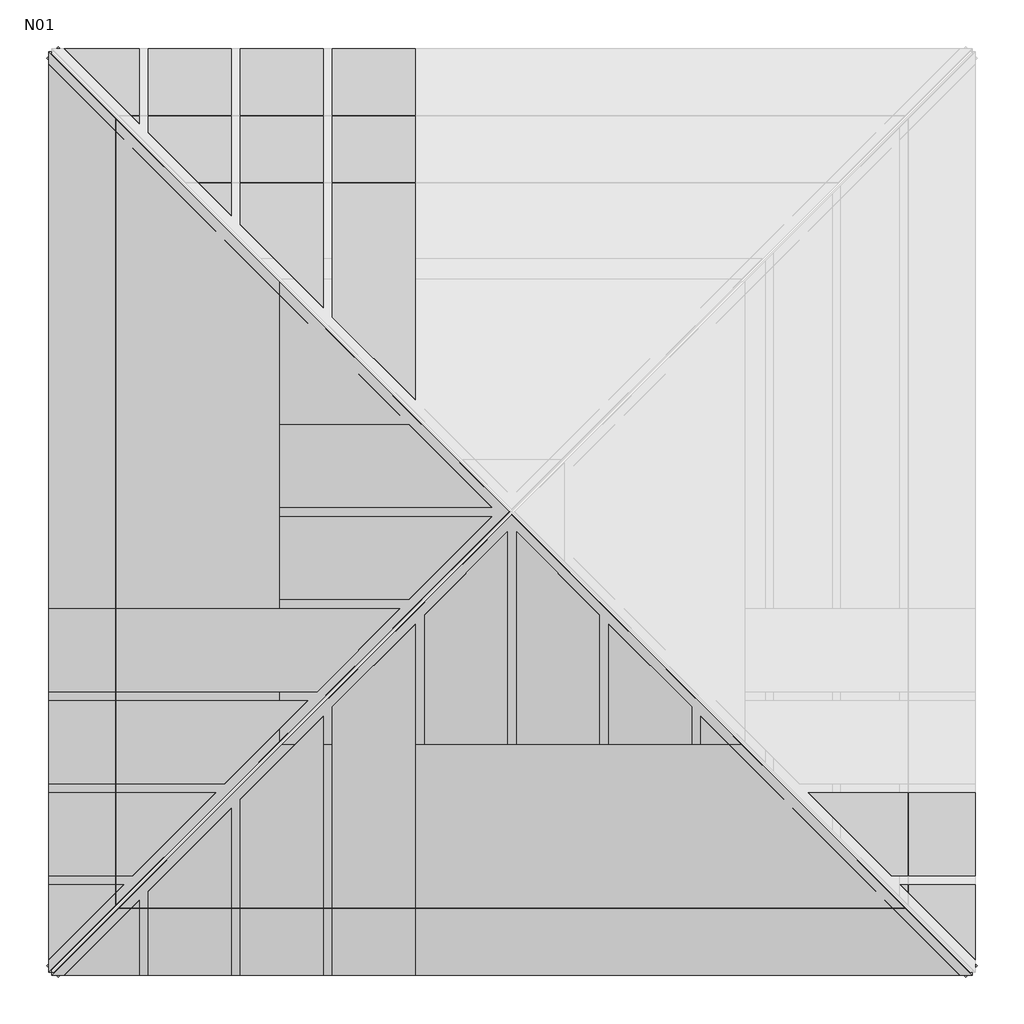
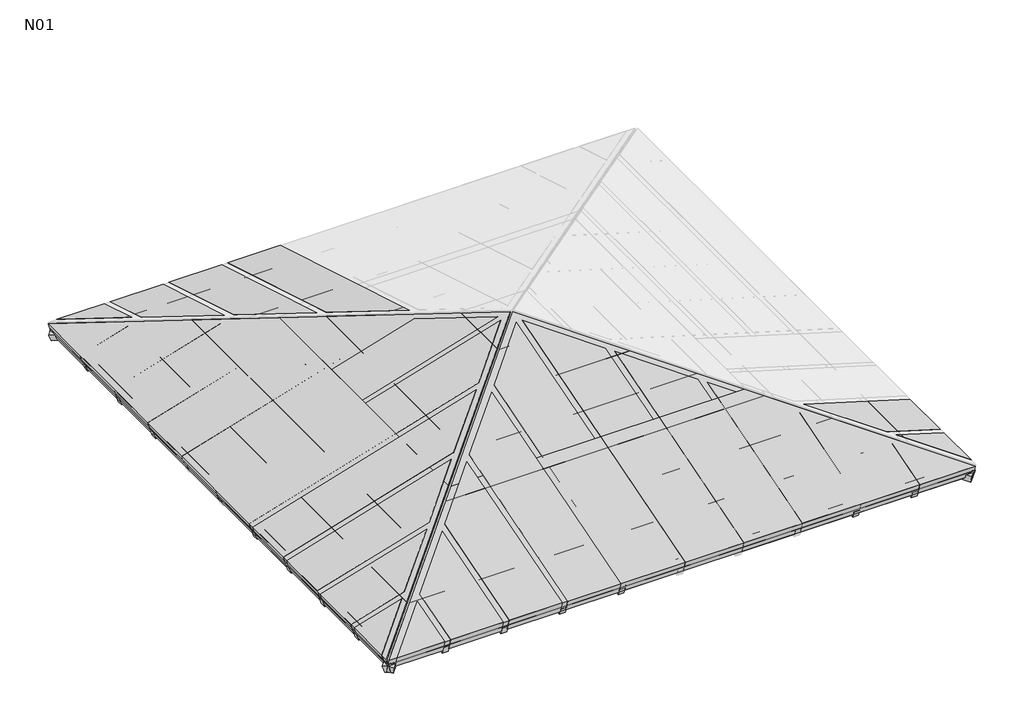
# One storey, part 1 of 2: 56 members, 38 plates.
"""IFC4 building model written with IfcOpenShell, lengths in millimetres."""

from ifc_helpers import new_model, si_unit, origin, place, context, project, spatial, transform, mapped, element, save
from components import rectangular_mullion_2x5_cm_e4b01166, rectangular_mullion_2x5_cm_c243ac4e, rectangular_mullion_2x5_cm_e88f7a66, rectangular_mullion_2x5_cm_7033cc24, rectangular_mullion_2x5_cm_fc4e4f32, rectangular_mullion_2x5_cm_76aa6b56, rectangular_mullion_6x12_cm_d0224d13, rectangular_mullion_6x5_cm_fcdd8aea, rectangular_mullion_6x5_cm_35c0ddda, rectangular_mullion_6x5_cm_7994da54, rectangular_mullion_6x5_cm_68429f73, rectangular_mullion_6x5_cm_cfa57f92, rectangular_mullion_6x5_cm_42f8e326, rectangular_mullion_6x5_cm_ff4e2c6f, rectangular_mullion_6x5_cm_523ccd75, rectangular_mullion_6x5_cm_2a4f21b8, rectangular_mullion_6x5_cm_048b1182, rectangular_mullion_6x5_cm_d8a74bb4, empty_system_panel_empty_65b771b1, empty_system_panel_empty_b0d35594, empty_system_panel_empty_8b1a6939, empty_system_panel_empty_328e3ff9, empty_system_panel_empty_d3f17187, empty_system_panel_empty_ec251fb9, empty_system_panel_empty_eb190688, empty_system_panel_empty_1f9a8fa0, empty_system_panel_empty_c79e2d26, empty_system_panel_empty_f5961f3d, empty_system_panel_empty_43ef93b5, empty_system_panel_empty_011029aa, empty_system_panel_empty_e1ce71c8, empty_system_panel_empty_26c64da4, empty_system_panel_empty_65730d84, empty_system_panel_empty_01459a41, empty_system_panel_empty_852c3224

model = new_model("IFC4")

# Units and contexts
model_context = context("Model", 3, world=origin())
ifc_project = project(units=[si_unit("LENGTHUNIT", "METRE", prefix="MILLI")], contexts=[model_context])

# Site, building, storey
site = spatial("IfcSite", under=ifc_project)
building = spatial("IfcBuilding", under=site)
storey = spatial("IfcBuildingStorey", under=building, Name="N01", Elevation=3000.0)

# Members
placement = place(None, origin())
rectangular_mullion_2x5_cm_shape = rectangular_mullion_2x5_cm_e4b01166(model_context)
element("IfcMember", 1, ObjectType="Rectangular Mullion : 2x5 cm", at=placement, inside=storey, context=model_context, shape_type="MappedRepresentation", body=[
    mapped(rectangular_mullion_2x5_cm_shape, transform((7159.310987, -1058.9385475, 3000.0), x_axis=(0.0, -0.9578262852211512, -0.287347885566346), y_axis=(0.0, 0.287347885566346, -0.9578262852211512), z_axis=(1.0, 0.0, 0.0))),
])
element("IfcMember", 2, ObjectType="Rectangular Mullion : 2x5 cm", at=placement, inside=storey, context=model_context, shape_type="MappedRepresentation", body=[
    mapped(rectangular_mullion_2x5_cm_shape, transform((2159.310987, -1058.9385475, 3000.0), x_axis=(-0.9578262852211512, 0.0, -0.287347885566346), y_axis=(0.287347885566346, 0.0, -0.9578262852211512), z_axis=(0.0, -1.0, 0.0))),
])
element("IfcMember", 3, ObjectType="Rectangular Mullion : 2x5 cm", at=placement, inside=storey, context=model_context, shape_type="MappedRepresentation", body=[
    mapped(rectangular_mullion_2x5_cm_shape, transform((2159.310987, 3941.0614525, 3000.0), x_axis=(0.0, 0.9578262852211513, -0.2873478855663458), y_axis=(0.0, -0.2873478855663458, -0.9578262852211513), z_axis=(-1.0, 0.0, 0.0))),
])
rectangular_mullion_2x5_cm_2_shape = rectangular_mullion_2x5_cm_c243ac4e(model_context)
element("IfcMember", 4, ObjectType="Rectangular Mullion : 2x5 cm", at=placement, inside=storey, context=model_context, shape_type="MappedRepresentation", body=[
    mapped(rectangular_mullion_2x5_cm_2_shape, transform((6795.3369986, -694.9645591, 3109.1921965), x_axis=(-0.9578262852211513, 0.0, 0.2873478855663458), y_axis=(-0.2873478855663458, 0.0, -0.9578262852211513), z_axis=(0.0, -1.0, 0.0))),
])
element("IfcMember", 5, ObjectType="Rectangular Mullion : 2x5 cm", at=placement, inside=storey, context=model_context, shape_type="MappedRepresentation", body=[
    mapped(rectangular_mullion_2x5_cm_2_shape, transform((2523.2849753, -694.9645591, 3109.1921965), x_axis=(0.0, 0.9578262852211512, 0.287347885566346), y_axis=(0.0, 0.287347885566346, -0.9578262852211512), z_axis=(-1.0, 0.0, 0.0))),
])
element("IfcMember", 6, ObjectType="Rectangular Mullion : 2x5 cm", at=placement, inside=storey, context=model_context, shape_type="MappedRepresentation", body=[
    mapped(rectangular_mullion_2x5_cm_2_shape, transform((2523.2849753, 3577.0874641, 3109.1921965), x_axis=(0.9578262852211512, 0.0, 0.287347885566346), y_axis=(0.287347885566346, 0.0, -0.9578262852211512), z_axis=(0.0, 1.0, 0.0))),
])
rectangular_mullion_2x5_cm_3_shape = rectangular_mullion_2x5_cm_e88f7a66(model_context)
element("IfcMember", 7, ObjectType="Rectangular Mullion : 2x5 cm", at=placement, inside=storey, context=model_context, shape_type="MappedRepresentation", body=[
    mapped(rectangular_mullion_2x5_cm_3_shape, transform((6431.3630102, -330.9905707, 3218.384393), x_axis=(-0.9578262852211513, 0.0, 0.2873478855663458), y_axis=(-0.2873478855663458, 0.0, -0.9578262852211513), z_axis=(0.0, -1.0, 0.0))),
])
element("IfcMember", 8, ObjectType="Rectangular Mullion : 2x5 cm", at=placement, inside=storey, context=model_context, shape_type="MappedRepresentation", body=[
    mapped(rectangular_mullion_2x5_cm_3_shape, transform((2887.2589637, -330.9905707, 3218.384393), x_axis=(0.0, 0.9578262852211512, 0.287347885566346), y_axis=(0.0, 0.287347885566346, -0.9578262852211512), z_axis=(-1.0, 0.0, 0.0))),
])
element("IfcMember", 9, ObjectType="Rectangular Mullion : 2x5 cm", at=placement, inside=storey, context=model_context, shape_type="MappedRepresentation", body=[
    mapped(rectangular_mullion_2x5_cm_3_shape, transform((2887.2589637, 3213.1134757, 3218.384393), x_axis=(0.9578262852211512, 0.0, 0.287347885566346), y_axis=(0.287347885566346, 0.0, -0.9578262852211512), z_axis=(0.0, 1.0, 0.0))),
])
rectangular_mullion_2x5_cm_4_shape = rectangular_mullion_2x5_cm_7033cc24(model_context)
element("IfcMember", 10, ObjectType="Rectangular Mullion : 2x5 cm", at=placement, inside=storey, context=model_context, shape_type="MappedRepresentation", body=[
    mapped(rectangular_mullion_2x5_cm_4_shape, transform((3251.2329521, 32.9834177, 3327.5765895), x_axis=(0.0, 0.9578262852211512, 0.287347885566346), y_axis=(0.0, 0.287347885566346, -0.9578262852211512), z_axis=(-1.0, 0.0, 0.0))),
])
element("IfcMember", 11, ObjectType="Rectangular Mullion : 2x5 cm", at=placement, inside=storey, context=model_context, shape_type="MappedRepresentation", body=[
    mapped(rectangular_mullion_2x5_cm_4_shape, transform((3251.2329521, 2849.1394874, 3327.5765895), x_axis=(0.9578262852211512, 0.0, 0.287347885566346), y_axis=(0.287347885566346, 0.0, -0.9578262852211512), z_axis=(0.0, 1.0, 0.0))),
])
rectangular_mullion_2x5_cm_5_shape = rectangular_mullion_2x5_cm_fc4e4f32(model_context)
element("IfcMember", 12, ObjectType="Rectangular Mullion : 2x5 cm", at=placement, inside=storey, context=model_context, shape_type="MappedRepresentation", body=[
    mapped(rectangular_mullion_2x5_cm_5_shape, transform((3615.2069405, 396.9574061, 3436.7687861), x_axis=(0.0, 0.9578262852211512, 0.287347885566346), y_axis=(0.0, 0.287347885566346, -0.9578262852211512), z_axis=(-1.0, 0.0, 0.0))),
])
element("IfcMember", 13, ObjectType="Rectangular Mullion : 2x5 cm", at=placement, inside=storey, context=model_context, shape_type="MappedRepresentation", body=[
    mapped(rectangular_mullion_2x5_cm_5_shape, transform((3615.2069405, 2485.165499, 3436.7687861), x_axis=(0.9578262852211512, 0.0, 0.287347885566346), y_axis=(0.287347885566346, 0.0, -0.9578262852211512), z_axis=(0.0, 1.0, 0.0))),
])
rectangular_mullion_2x5_cm_6_shape = rectangular_mullion_2x5_cm_76aa6b56(model_context)
element("IfcMember", 14, ObjectType="Rectangular Mullion : 2x5 cm", at=placement, inside=storey, context=model_context, shape_type="MappedRepresentation", body=[
    mapped(rectangular_mullion_2x5_cm_6_shape, transform((3979.1809289, 760.9313944, 3545.9609826), x_axis=(0.0, 0.9578262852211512, 0.287347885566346), y_axis=(0.0, 0.287347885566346, -0.9578262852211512), z_axis=(-1.0, 0.0, 0.0))),
])
element("IfcMember", 15, ObjectType="Rectangular Mullion : 2x5 cm", at=placement, inside=storey, context=model_context, shape_type="MappedRepresentation", body=[
    mapped(rectangular_mullion_2x5_cm_6_shape, transform((3979.1809289, 2121.1915106, 3545.9609826), x_axis=(0.9578262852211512, 0.0, 0.287347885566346), y_axis=(0.287347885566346, 0.0, -0.9578262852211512), z_axis=(0.0, 1.0, 0.0))),
])
rectangular_mullion_6x12_cm_shape = rectangular_mullion_6x12_cm_d0224d13(model_context)
element("IfcMember", 16, ObjectType="Rectangular Mullion : 6x12 cm", at=placement, inside=storey, context=model_context, shape_type="MappedRepresentation", body=[
    mapped(rectangular_mullion_6x12_cm_shape, transform((3409.310987, 191.0614525, 3375.0), x_axis=(0.0, 0.9578262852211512, 0.287347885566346), y_axis=(0.0, 0.287347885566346, -0.9578262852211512), z_axis=(-1.0, 0.0, 0.0))),
])
element("IfcMember", 17, ObjectType="Rectangular Mullion : 6x12 cm", at=placement, inside=storey, context=model_context, shape_type="MappedRepresentation", body=[
    mapped(rectangular_mullion_6x12_cm_shape, transform((3409.310987, 2691.0614525, 3375.0), x_axis=(0.9578262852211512, 0.0, 0.287347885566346), y_axis=(0.287347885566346, 0.0, -0.9578262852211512), z_axis=(0.0, 1.0, 0.0))),
])
rectangular_mullion_6x5_cm_shape = rectangular_mullion_6x5_cm_fcdd8aea(model_context)
element("IfcMember", 18, ObjectType="Rectangular Mullion : 6x5 cm", at=placement, inside=storey, context=model_context, shape_type="MappedRepresentation", body=[
    mapped(rectangular_mullion_6x5_cm_shape, transform((6659.3109867, -558.9385472, 3150.0000001), x_axis=(0.0, 1.0, 0.0), y_axis=(-0.28734788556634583, 0.0, -0.9578262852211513), z_axis=(-0.9578262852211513, 0.0, 0.28734788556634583))),
])
element("IfcMember", 19, ObjectType="Rectangular Mullion : 6x5 cm", at=placement, inside=storey, context=model_context, shape_type="MappedRepresentation", body=[
    mapped(rectangular_mullion_6x5_cm_shape, transform((2659.3109872, 3441.0614523, 3150.0000001), x_axis=(0.0, -1.0, 0.0), y_axis=(0.2873478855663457, 0.0, -0.9578262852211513), z_axis=(0.9578262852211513, 0.0, 0.2873478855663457))),
])
rectangular_mullion_6x5_cm_2_shape = rectangular_mullion_6x5_cm_35c0ddda(model_context)
element("IfcMember", 20, ObjectType="Rectangular Mullion : 6x5 cm", at=placement, inside=storey, context=model_context, shape_type="MappedRepresentation", body=[
    mapped(rectangular_mullion_6x5_cm_2_shape, transform((6159.3109868, -58.9385473, 3300.0000001), x_axis=(0.0, 1.0, 0.0), y_axis=(-0.28734788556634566, 0.0, -0.9578262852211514), z_axis=(-0.9578262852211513, 0.0, 0.2873478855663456))),
])
element("IfcMember", 21, ObjectType="Rectangular Mullion : 6x5 cm", at=placement, inside=storey, context=model_context, shape_type="MappedRepresentation", body=[
    mapped(rectangular_mullion_6x5_cm_2_shape, transform((3159.3109871, 2941.0614523, 3300.0000001), x_axis=(0.0, -1.0, 0.0), y_axis=(0.2873478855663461, 0.0, -0.9578262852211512), z_axis=(0.9578262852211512, 0.0, 0.2873478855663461))),
])
rectangular_mullion_6x5_cm_3_shape = rectangular_mullion_6x5_cm_7994da54(model_context)
element("IfcMember", 22, ObjectType="Rectangular Mullion : 6x5 cm", at=placement, inside=storey, context=model_context, shape_type="MappedRepresentation", body=[
    mapped(rectangular_mullion_6x5_cm_3_shape, transform((3659.3109871, 2441.0614524, 3450.0), x_axis=(0.0, -1.0, 0.0), y_axis=(0.28734788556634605, 0.0, -0.9578262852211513), z_axis=(0.9578262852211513, 0.0, 0.28734788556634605))),
])
rectangular_mullion_6x5_cm_4_shape = rectangular_mullion_6x5_cm_68429f73(model_context)
element("IfcMember", 23, ObjectType="Rectangular Mullion : 6x5 cm", at=placement, inside=storey, context=model_context, shape_type="MappedRepresentation", body=[
    mapped(rectangular_mullion_6x5_cm_4_shape, transform((4159.310987, 941.0614526, 3600.0), x_axis=(0.0, -1.0, 0.0), y_axis=(0.28734788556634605, 0.0, -0.9578262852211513), z_axis=(0.9578262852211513, 0.0, 0.28734788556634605))),
])
rectangular_mullion_6x5_cm_5_shape = rectangular_mullion_6x5_cm_cfa57f92(model_context)
element("IfcMember", 24, ObjectType="Rectangular Mullion : 6x5 cm", at=placement, inside=storey, context=model_context, shape_type="MappedRepresentation", body=[
    mapped(rectangular_mullion_6x5_cm_5_shape, transform((3659.3109871, 441.0614526, 3450.0), x_axis=(0.0, -1.0, 0.0), y_axis=(0.28734788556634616, 0.0, -0.9578262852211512), z_axis=(0.9578262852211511, 0.0, 0.2873478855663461))),
])
element("IfcMember", 25, ObjectType="Rectangular Mullion : 6x5 cm", at=placement, inside=storey, context=model_context, shape_type="MappedRepresentation", body=[
    mapped(rectangular_mullion_6x5_cm_5_shape, transform((3659.3109871, 2441.0614524, 3450.0), x_axis=(-1.0, 0.0, 0.0), y_axis=(0.0, -0.28734788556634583, -0.9578262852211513), z_axis=(0.0, -0.9578262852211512, 0.2873478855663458))),
])
rectangular_mullion_6x5_cm_6_shape = rectangular_mullion_6x5_cm_42f8e326(model_context)
element("IfcMember", 26, ObjectType="Rectangular Mullion : 6x5 cm", at=placement, inside=storey, context=model_context, shape_type="MappedRepresentation", body=[
    mapped(rectangular_mullion_6x5_cm_6_shape, transform((6159.3109868, -58.9385473, 3300.0000001), x_axis=(1.0, 0.0, 0.0), y_axis=(0.0, 0.2873478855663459, -0.9578262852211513), z_axis=(0.0, 0.9578262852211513, 0.2873478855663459))),
])
element("IfcMember", 27, ObjectType="Rectangular Mullion : 6x5 cm", at=placement, inside=storey, context=model_context, shape_type="MappedRepresentation", body=[
    mapped(rectangular_mullion_6x5_cm_6_shape, transform((3159.3109871, -58.9385473, 3300.0000001), x_axis=(0.0, -1.0, 0.0), y_axis=(0.28734788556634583, 0.0, -0.9578262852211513), z_axis=(0.9578262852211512, 0.0, 0.2873478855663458))),
])
element("IfcMember", 28, ObjectType="Rectangular Mullion : 6x5 cm", at=placement, inside=storey, context=model_context, shape_type="MappedRepresentation", body=[
    mapped(rectangular_mullion_6x5_cm_6_shape, transform((3159.3109871, 2941.0614523, 3300.0000001), x_axis=(-1.0, 0.0, 0.0), y_axis=(0.0, -0.28734788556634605, -0.9578262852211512), z_axis=(0.0, -0.9578262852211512, 0.28734788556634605))),
])
rectangular_mullion_6x5_cm_7_shape = rectangular_mullion_6x5_cm_ff4e2c6f(model_context)
element("IfcMember", 29, ObjectType="Rectangular Mullion : 6x5 cm", at=placement, inside=storey, context=model_context, shape_type="MappedRepresentation", body=[
    mapped(rectangular_mullion_6x5_cm_7_shape, transform((6659.3109867, -558.9385472, 3150.0000001), x_axis=(1.0, 0.0, 0.0), y_axis=(0.0, 0.2873478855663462, -0.9578262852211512), z_axis=(0.0, 0.9578262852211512, 0.2873478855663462))),
])
element("IfcMember", 30, ObjectType="Rectangular Mullion : 6x5 cm", at=placement, inside=storey, context=model_context, shape_type="MappedRepresentation", body=[
    mapped(rectangular_mullion_6x5_cm_7_shape, transform((2659.3109872, -558.9385472, 3150.0000001), x_axis=(0.0, -1.0, 0.0), y_axis=(0.2873478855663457, 0.0, -0.9578262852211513), z_axis=(0.9578262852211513, 0.0, 0.2873478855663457))),
])
element("IfcMember", 31, ObjectType="Rectangular Mullion : 6x5 cm", at=placement, inside=storey, context=model_context, shape_type="MappedRepresentation", body=[
    mapped(rectangular_mullion_6x5_cm_7_shape, transform((2659.3109872, 3441.0614523, 3150.0000001), x_axis=(-1.0, 0.0, 0.0), y_axis=(0.0, -0.28734788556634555, -0.9578262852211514), z_axis=(0.0, -0.9578262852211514, 0.28734788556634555))),
])
element("IfcMember", 32, ObjectType="Rectangular Mullion : 6x5 cm", at=placement, inside=storey, context=model_context, shape_type="MappedRepresentation", body=[
    mapped(rectangular_mullion_6x5_cm_shape, transform((2659.3109872, -558.9385472, 3150.0000001), x_axis=(1.0, 0.0, 0.0), y_axis=(0.0, 0.28734788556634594, -0.9578262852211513), z_axis=(0.0, 0.9578262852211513, 0.28734788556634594))),
])
element("IfcMember", 33, ObjectType="Rectangular Mullion : 6x5 cm", at=placement, inside=storey, context=model_context, shape_type="MappedRepresentation", body=[
    mapped(rectangular_mullion_6x5_cm_2_shape, transform((3159.3109871, -58.9385473, 3300.0000001), x_axis=(1.0, 0.0, 0.0), y_axis=(0.0, 0.28734788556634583, -0.9578262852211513), z_axis=(0.0, 0.9578262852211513, 0.28734788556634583))),
])
element("IfcMember", 34, ObjectType="Rectangular Mullion : 6x5 cm", at=placement, inside=storey, context=model_context, shape_type="MappedRepresentation", body=[
    mapped(rectangular_mullion_6x5_cm_3_shape, transform((3659.3109871, 441.0614526, 3450.0), x_axis=(1.0, 0.0, 0.0), y_axis=(0.0, 0.287347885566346, -0.9578262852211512), z_axis=(0.0, 0.9578262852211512, 0.287347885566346))),
])
rectangular_mullion_6x5_cm_8_shape = rectangular_mullion_6x5_cm_523ccd75(model_context)
element("IfcMember", 35, ObjectType="Rectangular Mullion : 6x5 cm", at=placement, inside=storey, context=model_context, shape_type="MappedRepresentation", body=[
    mapped(rectangular_mullion_6x5_cm_8_shape, transform((4159.310987, 941.0614526, 3600.0), x_axis=(1.0, 0.0, 0.0), y_axis=(0.0, 0.28734788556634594, -0.9578262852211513), z_axis=(0.0, 0.9578262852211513, 0.28734788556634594))),
])
rectangular_mullion_6x5_cm_9_shape = rectangular_mullion_6x5_cm_2a4f21b8(model_context)
element("IfcMember", 36, ObjectType="Rectangular Mullion : 6x5 cm", at=placement, inside=storey, context=model_context, shape_type="MappedRepresentation", body=[
    mapped(rectangular_mullion_6x5_cm_9_shape, transform((7159.310987, -1058.9385475, 3000.0), x_axis=(-0.6625422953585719, -0.7221711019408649, 0.19876268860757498), y_axis=(-0.287347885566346, 0.0, -0.9578262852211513), z_axis=(0.6917144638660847, -0.6917144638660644, -0.207514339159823))),
])
element("IfcMember", 37, ObjectType="Rectangular Mullion : 6x5 cm", at=placement, inside=storey, context=model_context, shape_type="MappedRepresentation", body=[
    mapped(rectangular_mullion_6x5_cm_9_shape, transform((2159.310987, 3941.0614525, 3000.0), x_axis=(0.6625422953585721, 0.7221711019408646, 0.1987626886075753), y_axis=(0.2873478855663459, 0.0, -0.9578262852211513), z_axis=(-0.6917144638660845, 0.6917144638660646, -0.20751433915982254))),
])
element("IfcMember", 38, ObjectType="Rectangular Mullion : 6x5 cm", at=placement, inside=storey, context=model_context, shape_type="MappedRepresentation", body=[
    mapped(rectangular_mullion_6x5_cm_9_shape, transform((2159.310987, -1058.9385475, 3000.0), x_axis=(-0.7221711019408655, 0.6625422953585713, 0.19876268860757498), y_axis=(0.0, 0.28734788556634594, -0.9578262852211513), z_axis=(-0.6917144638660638, -0.6917144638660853, -0.20751433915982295))),
])
rectangular_mullion_6x5_cm_10_shape = rectangular_mullion_6x5_cm_048b1182(model_context)
element("IfcMember", 39, ObjectType="Rectangular Mullion : 6x5 cm", at=placement, inside=storey, context=model_context, shape_type="MappedRepresentation", body=[
    mapped(rectangular_mullion_6x5_cm_10_shape, transform((3659.3109871, 2441.0614524, 3450.0), x_axis=(-0.722171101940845, -0.6625422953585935, 0.19876268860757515), y_axis=(0.0, -0.28734788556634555, -0.9578262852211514), z_axis=(0.6917144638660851, -0.6917144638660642, 0.20751433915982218))),
])
element("IfcMember", 40, ObjectType="Rectangular Mullion : 6x5 cm", at=placement, inside=storey, context=model_context, shape_type="MappedRepresentation", body=[
    mapped(rectangular_mullion_6x5_cm_10_shape, transform((3159.3109871, 2941.0614523, 3300.0000001), x_axis=(-0.7221711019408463, -0.6625422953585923, 0.1987626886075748), y_axis=(0.0, -0.28734788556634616, -0.9578262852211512), z_axis=(0.6917144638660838, -0.6917144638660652, 0.20751433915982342))),
])
element("IfcMember", 41, ObjectType="Rectangular Mullion : 6x5 cm", at=placement, inside=storey, context=model_context, shape_type="MappedRepresentation", body=[
    mapped(rectangular_mullion_6x5_cm_10_shape, transform((6659.3109867, -558.9385472, 3150.0000001), x_axis=(-0.6625422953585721, -0.7221711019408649, 0.19876268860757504), y_axis=(-0.2873478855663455, 0.0, -0.9578262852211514), z_axis=(0.6917144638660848, -0.6917144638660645, -0.2075143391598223))),
])
element("IfcMember", 42, ObjectType="Rectangular Mullion : 6x5 cm", at=placement, inside=storey, context=model_context, shape_type="MappedRepresentation", body=[
    mapped(rectangular_mullion_6x5_cm_10_shape, transform((6159.3109868, -58.9385473, 3300.0000001), x_axis=(-0.6625422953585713, -0.7221711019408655, 0.19876268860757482), y_axis=(-0.2873478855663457, 0.0, -0.9578262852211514), z_axis=(0.6917144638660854, -0.6917144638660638, -0.20751433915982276))),
])
element("IfcMember", 43, ObjectType="Rectangular Mullion : 6x5 cm", at=placement, inside=storey, context=model_context, shape_type="MappedRepresentation", body=[
    mapped(rectangular_mullion_6x5_cm_10_shape, transform((6159.3109868, -58.9385473, 3300.0000001), x_axis=(0.7221711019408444, 0.662542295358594, 0.19876268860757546), y_axis=(0.0, 0.2873478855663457, -0.9578262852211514), z_axis=(-0.6917144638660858, 0.6917144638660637, 0.20751433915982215))),
])
element("IfcMember", 44, ObjectType="Rectangular Mullion : 6x5 cm", at=placement, inside=storey, context=model_context, shape_type="MappedRepresentation", body=[
    mapped(rectangular_mullion_6x5_cm_10_shape, transform((2659.3109872, 3441.0614523, 3150.0000001), x_axis=(0.6625422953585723, 0.7221711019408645, 0.19876268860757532), y_axis=(0.28734788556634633, 0.0, -0.9578262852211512), z_axis=(-0.6917144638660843, 0.6917144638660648, -0.20751433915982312))),
])
element("IfcMember", 45, ObjectType="Rectangular Mullion : 6x5 cm", at=placement, inside=storey, context=model_context, shape_type="MappedRepresentation", body=[
    mapped(rectangular_mullion_6x5_cm_10_shape, transform((3159.3109871, 2941.0614523, 3300.0000001), x_axis=(0.6625422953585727, 0.7221711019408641, 0.1987626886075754), y_axis=(0.28734788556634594, 0.0, -0.9578262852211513), z_axis=(-0.6917144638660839, 0.6917144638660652, -0.20751433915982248))),
])
element("IfcMember", 46, ObjectType="Rectangular Mullion : 6x5 cm", at=placement, inside=storey, context=model_context, shape_type="MappedRepresentation", body=[
    mapped(rectangular_mullion_6x5_cm_10_shape, transform((3659.3109871, 2441.0614524, 3450.0), x_axis=(0.6625422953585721, 0.7221711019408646, 0.19876268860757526), y_axis=(0.28734788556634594, 0.0, -0.9578262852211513), z_axis=(-0.6917144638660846, 0.6917144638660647, -0.20751433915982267))),
])
element("IfcMember", 47, ObjectType="Rectangular Mullion : 6x5 cm", at=placement, inside=storey, context=model_context, shape_type="MappedRepresentation", body=[
    mapped(rectangular_mullion_6x5_cm_10_shape, transform((4159.310987, 941.0614526, 3600.0), x_axis=(0.6625422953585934, -0.7221711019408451, 0.19876268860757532), y_axis=(0.287347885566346, 0.0, -0.9578262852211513), z_axis=(0.691714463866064, 0.691714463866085, 0.2075143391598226))),
])
element("IfcMember", 48, ObjectType="Rectangular Mullion : 6x5 cm", at=placement, inside=storey, context=model_context, shape_type="MappedRepresentation", body=[
    mapped(rectangular_mullion_6x5_cm_10_shape, transform((3659.3109871, 441.0614526, 3450.0), x_axis=(0.6625422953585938, -0.7221711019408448, 0.1987626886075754), y_axis=(0.2873478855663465, 0.0, -0.9578262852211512), z_axis=(0.6917144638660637, 0.6917144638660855, 0.20751433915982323))),
])
element("IfcMember", 49, ObjectType="Rectangular Mullion : 6x5 cm", at=placement, inside=storey, context=model_context, shape_type="MappedRepresentation", body=[
    mapped(rectangular_mullion_6x5_cm_10_shape, transform((3159.3109871, -58.9385473, 3300.0000001), x_axis=(0.6625422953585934, -0.7221711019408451, 0.19876268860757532), y_axis=(0.287347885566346, 0.0, -0.9578262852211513), z_axis=(0.691714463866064, 0.691714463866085, 0.2075143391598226))),
])
element("IfcMember", 50, ObjectType="Rectangular Mullion : 6x5 cm", at=placement, inside=storey, context=model_context, shape_type="MappedRepresentation", body=[
    mapped(rectangular_mullion_6x5_cm_9_shape, transform((2659.3109872, 3441.0614523, 3150.0000001), x_axis=(-0.7221711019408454, -0.6625422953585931, 0.19876268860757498), y_axis=(0.0, -0.2873478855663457, -0.9578262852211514), z_axis=(0.6917144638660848, -0.6917144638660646, 0.2075143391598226))),
])
element("IfcMember", 51, ObjectType="Rectangular Mullion : 6x5 cm", at=placement, inside=storey, context=model_context, shape_type="MappedRepresentation", body=[
    mapped(rectangular_mullion_6x5_cm_9_shape, transform((6659.3109867, -558.9385472, 3150.0000001), x_axis=(0.7221711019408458, 0.6625422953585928, 0.19876268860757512), y_axis=(0.0, 0.2873478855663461, -0.9578262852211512), z_axis=(-0.6917144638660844, 0.6917144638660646, 0.20751433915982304))),
])
element("IfcMember", 52, ObjectType="Rectangular Mullion : 6x5 cm", at=placement, inside=storey, context=model_context, shape_type="MappedRepresentation", body=[
    mapped(rectangular_mullion_6x5_cm_9_shape, transform((2659.3109872, -558.9385472, 3150.0000001), x_axis=(0.6625422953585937, -0.7221711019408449, 0.19876268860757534), y_axis=(0.28734788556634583, 0.0, -0.9578262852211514), z_axis=(0.691714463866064, 0.6917144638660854, 0.20751433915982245))),
])
element("IfcMember", 53, ObjectType="Rectangular Mullion : 6x5 cm", at=placement, inside=storey, context=model_context, shape_type="MappedRepresentation", body=[
    mapped(rectangular_mullion_6x5_cm_10_shape, transform((2659.3109872, -558.9385472, 3150.0000001), x_axis=(-0.7221711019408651, 0.6625422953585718, 0.19876268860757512), y_axis=(0.0, 0.2873478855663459, -0.9578262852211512), z_axis=(-0.6917144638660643, -0.6917144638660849, -0.20751433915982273))),
])
element("IfcMember", 54, ObjectType="Rectangular Mullion : 6x5 cm", at=placement, inside=storey, context=model_context, shape_type="MappedRepresentation", body=[
    mapped(rectangular_mullion_6x5_cm_10_shape, transform((3159.3109871, -58.9385473, 3300.0000001), x_axis=(-0.7221711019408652, 0.6625422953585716, 0.19876268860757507), y_axis=(0.0, 0.28734788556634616, -0.9578262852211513), z_axis=(-0.6917144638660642, -0.691714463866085, -0.20751433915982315))),
])
element("IfcMember", 55, ObjectType="Rectangular Mullion : 6x5 cm", at=placement, inside=storey, context=model_context, shape_type="MappedRepresentation", body=[
    mapped(rectangular_mullion_6x5_cm_10_shape, transform((3659.3109871, 441.0614526, 3450.0), x_axis=(-0.7221711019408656, 0.6625422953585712, 0.19876268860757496), y_axis=(0.0, 0.287347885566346, -0.9578262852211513), z_axis=(-0.6917144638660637, -0.6917144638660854, -0.207514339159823))),
])
rectangular_mullion_6x5_cm_11_shape = rectangular_mullion_6x5_cm_d8a74bb4(model_context)
element("IfcMember", 56, ObjectType="Rectangular Mullion : 6x5 cm", at=placement, inside=storey, context=model_context, shape_type="MappedRepresentation", body=[
    mapped(rectangular_mullion_6x5_cm_11_shape, transform((4159.310987, 941.0614526, 3600.0), x_axis=(-0.7221711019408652, 0.6625422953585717, 0.1987626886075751), y_axis=(0.0, 0.28734788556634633, -0.9578262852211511), z_axis=(-0.6917144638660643, -0.6917144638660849, -0.20751433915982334))),
])

# Plates
empty_system_panel_empty_shape = empty_system_panel_empty_65b771b1(model_context)
element("IfcPlate", 57, ObjectType="Empty System Panel : Empty", at=placement, inside=storey, context=model_context, shape_type="MappedRepresentation", body=[
    mapped(empty_system_panel_empty_shape, transform((2159.310987, 1441.0614525, 3000.0), x_axis=(0.0, -1.0, 0.0), y_axis=(0.287347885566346, 0.0, -0.9578262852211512), z_axis=(0.9578262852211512, 0.0, 0.287347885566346))),
])
element("IfcPlate", 58, ObjectType="Empty System Panel : Empty", at=placement, inside=storey, context=model_context, shape_type="MappedRepresentation", body=[
    mapped(empty_system_panel_empty_shape, transform((4659.310987, -1058.9385475, 3000.0), x_axis=(1.0, 0.0, 0.0), y_axis=(0.0, 0.287347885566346, -0.9578262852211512), z_axis=(0.0, 0.9578262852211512, 0.287347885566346))),
])
empty_system_panel_empty_2_shape = empty_system_panel_empty_b0d35594(model_context)
element("IfcPlate", 59, ObjectType="Empty System Panel : Empty", at=placement, inside=storey, context=model_context, shape_type="MappedRepresentation", body=[
    mapped(empty_system_panel_empty_2_shape, transform((3409.310987, 1441.0614525, 3375.0), x_axis=(0.0, -1.0, 0.0), y_axis=(0.287347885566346, 0.0, -0.9578262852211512), z_axis=(0.9578262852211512, 0.0, 0.287347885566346))),
])
element("IfcPlate", 60, ObjectType="Empty System Panel : Empty", at=placement, inside=storey, context=model_context, shape_type="MappedRepresentation", body=[
    mapped(empty_system_panel_empty_2_shape, transform((4659.310987, 191.0614525, 3375.0), x_axis=(1.0, 0.0, 0.0), y_axis=(0.0, 0.287347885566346, -0.9578262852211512), z_axis=(0.0, 0.9578262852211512, 0.287347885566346))),
])
empty_system_panel_empty_3_shape = empty_system_panel_empty_8b1a6939(model_context)
element("IfcPlate", 61, ObjectType="Empty System Panel : Empty", at=placement, inside=storey, context=model_context, shape_type="MappedRepresentation", body=[
    mapped(empty_system_panel_empty_3_shape, transform((2159.310987, 3668.9436175, 3000.0), x_axis=(0.0, -1.0, 0.0), y_axis=(0.287347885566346, 0.0, -0.9578262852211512), z_axis=(0.9578262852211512, 0.0, 0.287347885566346))),
])
element("IfcPlate", 62, ObjectType="Empty System Panel : Empty", at=placement, inside=storey, context=model_context, shape_type="MappedRepresentation", body=[
    mapped(empty_system_panel_empty_3_shape, transform((2431.428822, -1058.9385475, 3000.0), x_axis=(1.0, 0.0, 0.0), y_axis=(0.0, 0.287347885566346, -0.9578262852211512), z_axis=(0.0, 0.9578262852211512, 0.287347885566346))),
])
element("IfcPlate", 63, ObjectType="Empty System Panel : Empty", at=placement, inside=storey, context=model_context, shape_type="MappedRepresentation", body=[
    mapped(empty_system_panel_empty_3_shape, transform((7159.310987, -786.8207124, 3000.0), x_axis=(0.0, 1.0, 0.0), y_axis=(-0.2873478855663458, 0.0, -0.9578262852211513), z_axis=(-0.9578262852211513, 0.0, 0.2873478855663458))),
])
empty_system_panel_empty_4_shape = empty_system_panel_empty_328e3ff9(model_context)
element("IfcPlate", 64, ObjectType="Empty System Panel : Empty", at=placement, inside=storey, context=model_context, shape_type="MappedRepresentation", body=[
    mapped(empty_system_panel_empty_4_shape, transform((2159.310987, 3191.0614523, 3000.0), x_axis=(0.0, -1.0, 0.0), y_axis=(0.287347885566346, 0.0, -0.9578262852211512), z_axis=(0.9578262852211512, 0.0, 0.287347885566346))),
])
element("IfcPlate", 65, ObjectType="Empty System Panel : Empty", at=placement, inside=storey, context=model_context, shape_type="MappedRepresentation", body=[
    mapped(empty_system_panel_empty_4_shape, transform((2909.3109872, -1058.9385475, 3000.0), x_axis=(1.0, 0.0, 0.0), y_axis=(0.0, 0.287347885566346, -0.9578262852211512), z_axis=(0.0, 0.9578262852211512, 0.287347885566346))),
])
element("IfcPlate", 66, ObjectType="Empty System Panel : Empty", at=placement, inside=storey, context=model_context, shape_type="MappedRepresentation", body=[
    mapped(empty_system_panel_empty_4_shape, transform((7159.310987, -308.9385473, 3000.0), x_axis=(0.0, 1.0, 0.0), y_axis=(-0.2873478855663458, 0.0, -0.9578262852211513), z_axis=(-0.9578262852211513, 0.0, 0.2873478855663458))),
])
empty_system_panel_empty_5_shape = empty_system_panel_empty_d3f17187(model_context)
element("IfcPlate", 67, ObjectType="Empty System Panel : Empty", at=placement, inside=storey, context=model_context, shape_type="MappedRepresentation", body=[
    mapped(empty_system_panel_empty_5_shape, transform((2159.310987, 2691.0614524, 3000.0), x_axis=(0.0, -1.0, 0.0), y_axis=(0.287347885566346, 0.0, -0.9578262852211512), z_axis=(0.9578262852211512, 0.0, 0.287347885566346))),
])
element("IfcPlate", 68, ObjectType="Empty System Panel : Empty", at=placement, inside=storey, context=model_context, shape_type="MappedRepresentation", body=[
    mapped(empty_system_panel_empty_5_shape, transform((3409.3109871, -1058.9385475, 3000.0), x_axis=(1.0, 0.0, 0.0), y_axis=(0.0, 0.287347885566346, -0.9578262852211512), z_axis=(0.0, 0.9578262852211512, 0.287347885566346))),
])
empty_system_panel_empty_6_shape = empty_system_panel_empty_ec251fb9(model_context)
element("IfcPlate", 69, ObjectType="Empty System Panel : Empty", at=placement, inside=storey, context=model_context, shape_type="MappedRepresentation", body=[
    mapped(empty_system_panel_empty_6_shape, transform((2159.310987, 2191.0614524, 3000.0), x_axis=(0.0, -1.0, 0.0), y_axis=(0.287347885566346, 0.0, -0.9578262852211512), z_axis=(0.9578262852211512, 0.0, 0.287347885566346))),
])
element("IfcPlate", 70, ObjectType="Empty System Panel : Empty", at=placement, inside=storey, context=model_context, shape_type="MappedRepresentation", body=[
    mapped(empty_system_panel_empty_6_shape, transform((3909.3109871, -1058.9385475, 3000.0), x_axis=(1.0, 0.0, 0.0), y_axis=(0.0, 0.287347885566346, -0.9578262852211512), z_axis=(0.0, 0.9578262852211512, 0.287347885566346))),
])
empty_system_panel_empty_7_shape = empty_system_panel_empty_eb190688(model_context)
element("IfcPlate", 71, ObjectType="Empty System Panel : Empty", at=placement, inside=storey, context=model_context, shape_type="MappedRepresentation", body=[
    mapped(empty_system_panel_empty_7_shape, transform((2159.310987, 1691.0614525, 3000.0), x_axis=(0.0, -1.0, 0.0), y_axis=(0.287347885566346, 0.0, -0.9578262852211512), z_axis=(0.9578262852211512, 0.0, 0.287347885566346))),
])
element("IfcPlate", 72, ObjectType="Empty System Panel : Empty", at=placement, inside=storey, context=model_context, shape_type="MappedRepresentation", body=[
    mapped(empty_system_panel_empty_7_shape, transform((4409.310987, -1058.9385475, 3000.0), x_axis=(1.0, 0.0, 0.0), y_axis=(0.0, 0.287347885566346, -0.9578262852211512), z_axis=(0.0, 0.9578262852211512, 0.287347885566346))),
])
empty_system_panel_empty_8_shape = empty_system_panel_empty_1f9a8fa0(model_context)
element("IfcPlate", 73, ObjectType="Empty System Panel : Empty", at=placement, inside=storey, context=model_context, shape_type="MappedRepresentation", body=[
    mapped(empty_system_panel_empty_8_shape, transform((2159.310987, 1191.0614525, 3000.0), x_axis=(0.0, -1.0, 0.0), y_axis=(0.287347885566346, 0.0, -0.9578262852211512), z_axis=(0.9578262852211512, 0.0, 0.287347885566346))),
])
element("IfcPlate", 74, ObjectType="Empty System Panel : Empty", at=placement, inside=storey, context=model_context, shape_type="MappedRepresentation", body=[
    mapped(empty_system_panel_empty_8_shape, transform((4909.3109869, -1058.9385475, 3000.0), x_axis=(1.0, 0.0, 0.0), y_axis=(0.0, 0.287347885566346, -0.9578262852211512), z_axis=(0.0, 0.9578262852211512, 0.287347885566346))),
])
empty_system_panel_empty_9_shape = empty_system_panel_empty_c79e2d26(model_context)
element("IfcPlate", 75, ObjectType="Empty System Panel : Empty", at=placement, inside=storey, context=model_context, shape_type="MappedRepresentation", body=[
    mapped(empty_system_panel_empty_9_shape, transform((3909.3109871, 3941.0614525, 3000.0), x_axis=(-1.0, 0.0, 0.0), y_axis=(0.0, -0.2873478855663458, -0.9578262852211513), z_axis=(0.0, -0.9578262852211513, 0.2873478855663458))),
])
element("IfcPlate", 76, ObjectType="Empty System Panel : Empty", at=placement, inside=storey, context=model_context, shape_type="MappedRepresentation", body=[
    mapped(empty_system_panel_empty_9_shape, transform((2159.310987, 691.0614526, 3000.0), x_axis=(0.0, -1.0, 0.0), y_axis=(0.287347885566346, 0.0, -0.9578262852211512), z_axis=(0.9578262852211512, 0.0, 0.287347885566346))),
])
element("IfcPlate", 77, ObjectType="Empty System Panel : Empty", at=placement, inside=storey, context=model_context, shape_type="MappedRepresentation", body=[
    mapped(empty_system_panel_empty_9_shape, transform((5409.3109869, -1058.9385475, 3000.0), x_axis=(1.0, 0.0, 0.0), y_axis=(0.0, 0.287347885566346, -0.9578262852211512), z_axis=(0.0, 0.9578262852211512, 0.287347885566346))),
])
empty_system_panel_empty_10_shape = empty_system_panel_empty_f5961f3d(model_context)
element("IfcPlate", 78, ObjectType="Empty System Panel : Empty", at=placement, inside=storey, context=model_context, shape_type="MappedRepresentation", body=[
    mapped(empty_system_panel_empty_10_shape, transform((3409.3109871, 3941.0614525, 3000.0), x_axis=(-1.0, 0.0, 0.0), y_axis=(0.0, -0.2873478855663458, -0.9578262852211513), z_axis=(0.0, -0.9578262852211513, 0.2873478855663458))),
])
element("IfcPlate", 79, ObjectType="Empty System Panel : Empty", at=placement, inside=storey, context=model_context, shape_type="MappedRepresentation", body=[
    mapped(empty_system_panel_empty_10_shape, transform((2159.310987, 191.0614527, 3000.0), x_axis=(0.0, -1.0, 0.0), y_axis=(0.287347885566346, 0.0, -0.9578262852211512), z_axis=(0.9578262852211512, 0.0, 0.287347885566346))),
])
element("IfcPlate", 80, ObjectType="Empty System Panel : Empty", at=placement, inside=storey, context=model_context, shape_type="MappedRepresentation", body=[
    mapped(empty_system_panel_empty_10_shape, transform((5909.3109868, -1058.9385475, 3000.0), x_axis=(1.0, 0.0, 0.0), y_axis=(0.0, 0.287347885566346, -0.9578262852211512), z_axis=(0.0, 0.9578262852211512, 0.287347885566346))),
])
empty_system_panel_empty_11_shape = empty_system_panel_empty_43ef93b5(model_context)
element("IfcPlate", 81, ObjectType="Empty System Panel : Empty", at=placement, inside=storey, context=model_context, shape_type="MappedRepresentation", body=[
    mapped(empty_system_panel_empty_11_shape, transform((2909.3109872, 3941.0614525, 3000.0), x_axis=(-1.0, 0.0, 0.0), y_axis=(0.0, -0.2873478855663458, -0.9578262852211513), z_axis=(0.0, -0.9578262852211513, 0.2873478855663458))),
])
element("IfcPlate", 82, ObjectType="Empty System Panel : Empty", at=placement, inside=storey, context=model_context, shape_type="MappedRepresentation", body=[
    mapped(empty_system_panel_empty_11_shape, transform((2159.310987, -308.9385473, 3000.0), x_axis=(0.0, -1.0, 0.0), y_axis=(0.287347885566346, 0.0, -0.9578262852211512), z_axis=(0.9578262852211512, 0.0, 0.287347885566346))),
])
element("IfcPlate", 83, ObjectType="Empty System Panel : Empty", at=placement, inside=storey, context=model_context, shape_type="MappedRepresentation", body=[
    mapped(empty_system_panel_empty_11_shape, transform((6409.3109868, -1058.9385475, 3000.0), x_axis=(1.0, 0.0, 0.0), y_axis=(0.0, 0.287347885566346, -0.9578262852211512), z_axis=(0.0, 0.9578262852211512, 0.287347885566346))),
])
empty_system_panel_empty_12_shape = empty_system_panel_empty_011029aa(model_context)
element("IfcPlate", 84, ObjectType="Empty System Panel : Empty", at=placement, inside=storey, context=model_context, shape_type="MappedRepresentation", body=[
    mapped(empty_system_panel_empty_12_shape, transform((2431.428822, 3941.0614525, 3000.0), x_axis=(-1.0, 0.0, 0.0), y_axis=(0.0, -0.2873478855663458, -0.9578262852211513), z_axis=(0.0, -0.9578262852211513, 0.2873478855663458))),
])
element("IfcPlate", 85, ObjectType="Empty System Panel : Empty", at=placement, inside=storey, context=model_context, shape_type="MappedRepresentation", body=[
    mapped(empty_system_panel_empty_12_shape, transform((2159.310987, -786.8207124, 3000.0), x_axis=(0.0, -1.0, 0.0), y_axis=(0.287347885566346, 0.0, -0.9578262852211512), z_axis=(0.9578262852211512, 0.0, 0.287347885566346))),
])
element("IfcPlate", 86, ObjectType="Empty System Panel : Empty", at=placement, inside=storey, context=model_context, shape_type="MappedRepresentation", body=[
    mapped(empty_system_panel_empty_12_shape, transform((6887.1931519, -1058.9385475, 3000.0), x_axis=(1.0, 0.0, 0.0), y_axis=(0.0, 0.287347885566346, -0.9578262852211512), z_axis=(0.0, 0.9578262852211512, 0.287347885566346))),
])
empty_system_panel_empty_13_shape = empty_system_panel_empty_e1ce71c8(model_context)
element("IfcPlate", 87, ObjectType="Empty System Panel : Empty", at=placement, inside=storey, context=model_context, shape_type="MappedRepresentation", body=[
    mapped(empty_system_panel_empty_13_shape, transform((2207.2023012, 1441.0614525, 3014.3673943), x_axis=(0.0, -1.0, 0.0), y_axis=(0.287347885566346, 0.0, -0.9578262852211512), z_axis=(0.9578262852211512, 0.0, 0.287347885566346))),
])
element("IfcPlate", 88, ObjectType="Empty System Panel : Empty", at=placement, inside=storey, context=model_context, shape_type="MappedRepresentation", body=[
    mapped(empty_system_panel_empty_13_shape, transform((4659.310987, -1011.0472332, 3014.3673943), x_axis=(1.0, 0.0, 0.0), y_axis=(0.0, 0.287347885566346, -0.9578262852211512), z_axis=(0.0, 0.9578262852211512, 0.287347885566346))),
])
empty_system_panel_empty_14_shape = empty_system_panel_empty_26c64da4(model_context)
element("IfcPlate", 89, ObjectType="Empty System Panel : Empty", at=placement, inside=storey, context=model_context, shape_type="MappedRepresentation", body=[
    mapped(empty_system_panel_empty_14_shape, transform((2571.1762896, 1441.0614525, 3123.5595908), x_axis=(0.0, -1.0, 0.0), y_axis=(0.287347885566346, 0.0, -0.9578262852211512), z_axis=(0.9578262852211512, 0.0, 0.287347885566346))),
])
element("IfcPlate", 90, ObjectType="Empty System Panel : Empty", at=placement, inside=storey, context=model_context, shape_type="MappedRepresentation", body=[
    mapped(empty_system_panel_empty_14_shape, transform((4659.310987, -647.0732448, 3123.5595908), x_axis=(1.0, 0.0, 0.0), y_axis=(0.0, 0.287347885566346, -0.9578262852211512), z_axis=(0.0, 0.9578262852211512, 0.287347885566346))),
])
empty_system_panel_empty_15_shape = empty_system_panel_empty_65730d84(model_context)
element("IfcPlate", 91, ObjectType="Empty System Panel : Empty", at=placement, inside=storey, context=model_context, shape_type="MappedRepresentation", body=[
    mapped(empty_system_panel_empty_15_shape, transform((2935.150278, 1441.0614525, 3232.7517873), x_axis=(0.0, -1.0, 0.0), y_axis=(0.287347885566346, 0.0, -0.9578262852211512), z_axis=(0.9578262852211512, 0.0, 0.287347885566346))),
])
element("IfcPlate", 92, ObjectType="Empty System Panel : Empty", at=placement, inside=storey, context=model_context, shape_type="MappedRepresentation", body=[
    mapped(empty_system_panel_empty_15_shape, transform((4659.310987, -283.0992565, 3232.7517873), x_axis=(1.0, 0.0, 0.0), y_axis=(0.0, 0.287347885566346, -0.9578262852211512), z_axis=(0.0, 0.9578262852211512, 0.287347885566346))),
])
empty_system_panel_empty_16_shape = empty_system_panel_empty_01459a41(model_context)
element("IfcPlate", 93, ObjectType="Empty System Panel : Empty", at=placement, inside=storey, context=model_context, shape_type="MappedRepresentation", body=[
    mapped(empty_system_panel_empty_16_shape, transform((3299.1242664, 1441.0614525, 3341.9439838), x_axis=(0.0, -1.0, 0.0), y_axis=(0.287347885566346, 0.0, -0.9578262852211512), z_axis=(0.9578262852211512, 0.0, 0.287347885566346))),
])
empty_system_panel_empty_17_shape = empty_system_panel_empty_852c3224(model_context)
element("IfcPlate", 94, ObjectType="Empty System Panel : Empty", at=placement, inside=storey, context=model_context, shape_type="MappedRepresentation", body=[
    mapped(empty_system_panel_empty_17_shape, transform((3663.0982548, 1441.0614525, 3451.1361803), x_axis=(0.0, -1.0, 0.0), y_axis=(0.287347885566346, 0.0, -0.9578262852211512), z_axis=(0.9578262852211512, 0.0, 0.287347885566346))),
])

save(model, "model.ifc")
